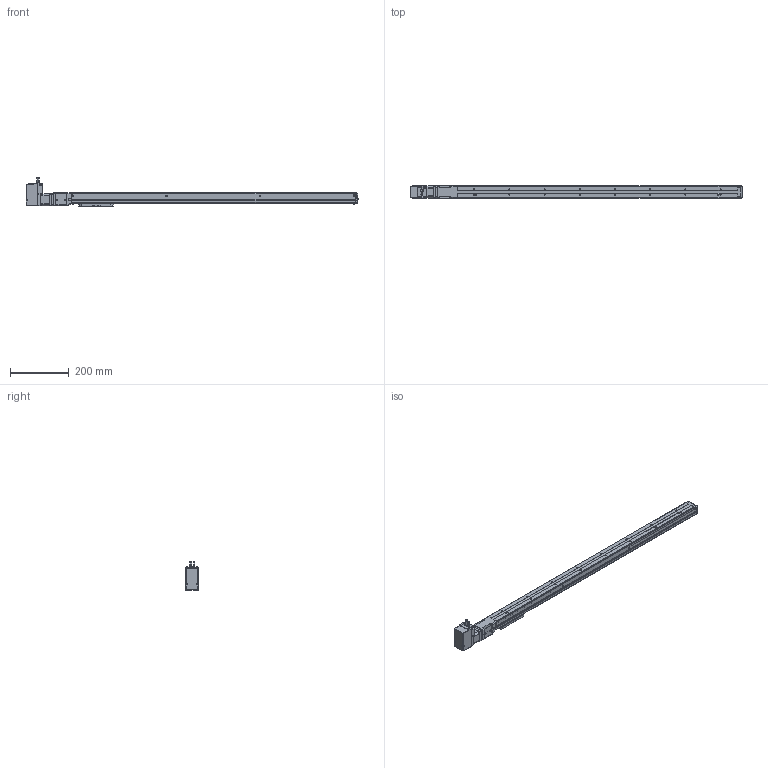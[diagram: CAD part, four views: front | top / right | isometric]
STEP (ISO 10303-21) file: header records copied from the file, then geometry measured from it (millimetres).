
FILE_DESCRIPTION(('FreeCAD Model'),'2;1');
FILE_NAME('Open CASCADE Shape Model','2023-08-01T18:27:34',('Author'),( ''),'Open CASCADE STEP processor 7.5','FreeCAD','Unknown');
FILE_SCHEMA(('AUTOMOTIVE_DESIGN { 1 0 10303 214 1 1 1 1 }'));
Length unit declared in the file: millimetre
Products named in the file (20): RCB0411; Shapes; Shapes001; Shapes002; Shapes003; Shapes004; Shapes005; Shapes006; Shapes007; Shapes008; Shapes009; Shapes010; Shapes011; Shapes012; Shapes013; KSF4-10-0800-0-AR(0); KSF4---(Cover); KSF4-AR---(Motor bracket); KSF4-10-0800---(slider); KSF4-10-0800-0-AR-(08000ARNo0)---(body)
Assembly tree (19 placements, depth 3):
  RCB0411
    Shapes
    Shapes001
    Shapes002
    Shapes003
    Shapes004
    Shapes005
    Shapes006
    Shapes007
    Shapes008
    Shapes009
    Shapes010
    Shapes011
    Shapes012
    Shapes013
    KSF4-10-0800-0-AR(0)
      KSF4---(Cover)
      KSF4-AR---(Motor bracket)
      KSF4-10-0800---(slider)
      KSF4-10-0800-0-AR-(08000ARNo0)---(body)
Bounding box: 1132 x 45.4 x 97.64 mm (x, y, z)
Volume: 1783564.8 mm3; surface area: 330703 mm2
Topology: 18 solids, 18 shells, 1309 faces, 3366 edges, 2196 vertices
Faces by surface type: plane 723, cylinder 436, cone 68, torus 53, bspline 19, revolution 6, sphere 4
Full cylindrical faces by diameter (mm): 2.113 x8, 2.459 x3, 3 x6, 3.242 x4, 3.4 x20, 4 x3, 4.5 x2, 5.5 x8, 6 x1, 6.5 x22, 8 x1, 12 x1, 22 x1, 28 x1, 30 x2
Entity records: 95226 total; most frequent: CARTESIAN_POINT 27234, DIRECTION 12781, LINE 7575, VECTOR 7575, ORIENTED_EDGE 6696, PCURVE 6696, DEFINITIONAL_REPRESENTATION 6696, EDGE_CURVE 3348
